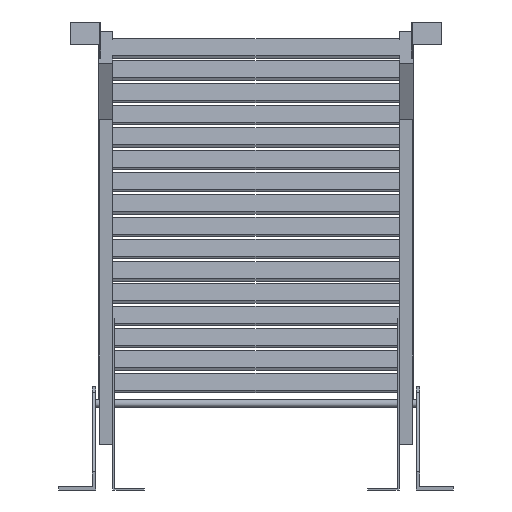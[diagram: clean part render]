
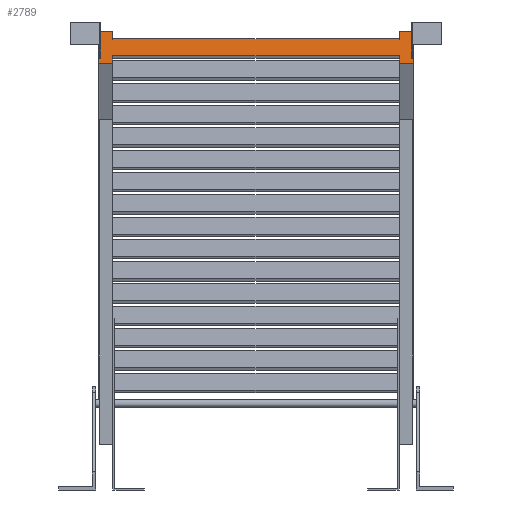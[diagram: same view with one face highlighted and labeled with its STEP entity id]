
A CAD part, front view. The second image highlights one B-rep face of the part: STEP entity #2789.
In plain terms, the highlighted planar face has unit normal (0, -0.99, 0.139).
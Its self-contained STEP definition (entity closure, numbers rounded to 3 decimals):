
#1763=DIRECTION('',(0.,0.139,0.99));
#1764=VECTOR('',#1763,13.5);
#1765=CARTESIAN_POINT('',(-250.,-4059.275,788.803));
#1766=LINE('',#1765,#1764);
#1767=DIRECTION('',(0.,-0.139,-0.99));
#1768=VECTOR('',#1767,13.5);
#1769=CARTESIAN_POINT('',(250.,-4057.396,802.172));
#1770=LINE('',#1769,#1768);
#1771=DIRECTION('',(-1.,0.,0.));
#1772=VECTOR('',#1771,25.);
#1773=CARTESIAN_POINT('',(275.,-4057.396,802.172));
#1774=LINE('',#1773,#1772);
#1775=DIRECTION('',(0.,0.139,0.99));
#1776=VECTOR('',#1775,57.);
#1777=CARTESIAN_POINT('',(275.,-4065.329,745.727));
#1778=LINE('',#1777,#1776);
#1779=DIRECTION('',(1.,0.,0.));
#1780=VECTOR('',#1779,25.);
#1781=CARTESIAN_POINT('',(250.,-4065.329,745.727));
#1782=LINE('',#1781,#1780);
#1783=DIRECTION('',(0.,-0.139,-0.99));
#1784=VECTOR('',#1783,13.5);
#1785=CARTESIAN_POINT('',(250.,-4063.45,759.095));
#1786=LINE('',#1785,#1784);
#1787=DIRECTION('',(0.,0.139,0.99));
#1788=VECTOR('',#1787,13.5);
#1789=CARTESIAN_POINT('',(-250.,-4065.329,745.727));
#1790=LINE('',#1789,#1788);
#1791=DIRECTION('',(1.,0.,0.));
#1792=VECTOR('',#1791,25.);
#1793=CARTESIAN_POINT('',(-275.,-4065.329,745.727));
#1794=LINE('',#1793,#1792);
#1795=DIRECTION('',(0.,-0.139,-0.99));
#1796=VECTOR('',#1795,57.);
#1797=CARTESIAN_POINT('',(-275.,-4057.396,802.172));
#1798=LINE('',#1797,#1796);
#1799=DIRECTION('',(-1.,0.,0.));
#1800=VECTOR('',#1799,25.);
#1801=CARTESIAN_POINT('',(-250.,-4057.396,802.172));
#1802=LINE('',#1801,#1800);
#1803=DIRECTION('',(1.,0.,0.));
#1804=VECTOR('',#1803,2.);
#1805=CARTESIAN_POINT('',(-273.,-4064.146,754.144));
#1806=LINE('',#1805,#1804);
#1807=DIRECTION('',(0.,0.139,0.99));
#1808=VECTOR('',#1807,40.);
#1809=CARTESIAN_POINT('',(-271.,-4064.146,754.144));
#1810=LINE('',#1809,#1808);
#1811=DIRECTION('',(1.,0.,0.));
#1812=VECTOR('',#1811,2.);
#1813=CARTESIAN_POINT('',(-273.,-4058.579,793.755));
#1814=LINE('',#1813,#1812);
#1815=DIRECTION('',(0.,0.139,0.99));
#1816=VECTOR('',#1815,40.);
#1817=CARTESIAN_POINT('',(-273.,-4064.146,754.144));
#1818=LINE('',#1817,#1816);
#1819=DIRECTION('',(1.,0.,0.));
#1820=VECTOR('',#1819,2.);
#1821=CARTESIAN_POINT('',(271.,-4064.146,754.144));
#1822=LINE('',#1821,#1820);
#1823=DIRECTION('',(0.,0.139,0.99));
#1824=VECTOR('',#1823,40.);
#1825=CARTESIAN_POINT('',(273.,-4064.146,754.144));
#1826=LINE('',#1825,#1824);
#1827=DIRECTION('',(1.,0.,0.));
#1828=VECTOR('',#1827,2.);
#1829=CARTESIAN_POINT('',(271.,-4058.579,793.755));
#1830=LINE('',#1829,#1828);
#1831=DIRECTION('',(0.,0.139,0.99));
#1832=VECTOR('',#1831,40.);
#1833=CARTESIAN_POINT('',(271.,-4064.146,754.144));
#1834=LINE('',#1833,#1832);
#2359=DIRECTION('',(1.,0.,0.));
#2360=VECTOR('',#2359,500.);
#2361=CARTESIAN_POINT('',(-250.,-4059.275,788.803));
#2362=LINE('',#2361,#2360);
#2363=DIRECTION('',(1.,0.,0.));
#2364=VECTOR('',#2363,500.);
#2365=CARTESIAN_POINT('',(-250.,-4063.45,759.095));
#2366=LINE('',#2365,#2364);
#2483=CARTESIAN_POINT('',(-250.,-4057.396,802.172));
#2484=CARTESIAN_POINT('',(-275.,-4057.396,802.172));
#2485=VERTEX_POINT('',#2483);
#2486=VERTEX_POINT('',#2484);
#2487=CARTESIAN_POINT('',(-275.,-4065.329,745.727));
#2488=CARTESIAN_POINT('',(-250.,-4065.329,745.727));
#2489=VERTEX_POINT('',#2487);
#2490=VERTEX_POINT('',#2488);
#2491=CARTESIAN_POINT('',(275.,-4065.329,745.727));
#2492=CARTESIAN_POINT('',(275.,-4057.396,802.172));
#2493=VERTEX_POINT('',#2491);
#2494=VERTEX_POINT('',#2492);
#2495=CARTESIAN_POINT('',(250.,-4065.329,745.727));
#2496=VERTEX_POINT('',#2495);
#2497=CARTESIAN_POINT('',(250.,-4057.396,802.172));
#2498=VERTEX_POINT('',#2497);
#2611=CARTESIAN_POINT('',(-250.,-4063.45,759.095));
#2613=VERTEX_POINT('',#2611);
#2615=CARTESIAN_POINT('',(-250.,-4059.275,788.803));
#2617=VERTEX_POINT('',#2615);
#2619=CARTESIAN_POINT('',(250.,-4063.45,759.095));
#2621=VERTEX_POINT('',#2619);
#2623=CARTESIAN_POINT('',(250.,-4059.275,788.803));
#2625=VERTEX_POINT('',#2623);
#2691=CARTESIAN_POINT('',(-273.,-4064.146,754.144));
#2692=CARTESIAN_POINT('',(-271.,-4064.146,754.144));
#2693=VERTEX_POINT('',#2691);
#2694=VERTEX_POINT('',#2692);
#2695=CARTESIAN_POINT('',(-273.,-4058.579,793.755));
#2696=CARTESIAN_POINT('',(-271.,-4058.579,793.755));
#2697=VERTEX_POINT('',#2695);
#2698=VERTEX_POINT('',#2696);
#2715=CARTESIAN_POINT('',(271.,-4064.146,754.144));
#2716=CARTESIAN_POINT('',(273.,-4064.146,754.144));
#2717=VERTEX_POINT('',#2715);
#2718=VERTEX_POINT('',#2716);
#2719=CARTESIAN_POINT('',(271.,-4058.579,793.755));
#2720=CARTESIAN_POINT('',(273.,-4058.579,793.755));
#2721=VERTEX_POINT('',#2719);
#2722=VERTEX_POINT('',#2720);
#2739=CARTESIAN_POINT('',(0.,-4089.362,574.722));
#2740=DIRECTION('',(0.,0.99,-0.139));
#2741=DIRECTION('',(1.,0.,0.));
#2742=AXIS2_PLACEMENT_3D('',#2739,#2740,#2741);
#2743=PLANE('',#2742);
#2745=ORIENTED_EDGE('',*,*,#2744,.F.);
#2747=ORIENTED_EDGE('',*,*,#2746,.T.);
#2749=ORIENTED_EDGE('',*,*,#2748,.F.);
#2751=ORIENTED_EDGE('',*,*,#2750,.F.);
#2753=ORIENTED_EDGE('',*,*,#2752,.F.);
#2755=ORIENTED_EDGE('',*,*,#2754,.F.);
#2757=ORIENTED_EDGE('',*,*,#2756,.F.);
#2759=ORIENTED_EDGE('',*,*,#2758,.F.);
#2761=ORIENTED_EDGE('',*,*,#2760,.F.);
#2763=ORIENTED_EDGE('',*,*,#2762,.F.);
#2765=ORIENTED_EDGE('',*,*,#2764,.F.);
#2767=ORIENTED_EDGE('',*,*,#2766,.F.);
#2768=EDGE_LOOP('',(#2745,#2747,#2749,#2751,#2753,#2755,#2757,#2759,#2761,#2763,
#2765,#2767));
#2769=FACE_OUTER_BOUND('',#2768,.F.);
#2771=ORIENTED_EDGE('',*,*,#2770,.T.);
#2773=ORIENTED_EDGE('',*,*,#2772,.T.);
#2775=ORIENTED_EDGE('',*,*,#2774,.F.);
#2777=ORIENTED_EDGE('',*,*,#2776,.F.);
#2778=EDGE_LOOP('',(#2771,#2773,#2775,#2777));
#2779=FACE_BOUND('',#2778,.F.);
#2781=ORIENTED_EDGE('',*,*,#2780,.T.);
#2783=ORIENTED_EDGE('',*,*,#2782,.T.);
#2785=ORIENTED_EDGE('',*,*,#2784,.F.);
#2786=ORIENTED_EDGE('',*,*,#2728,.F.);
#2787=EDGE_LOOP('',(#2781,#2783,#2785,#2786));
#2788=FACE_BOUND('',#2787,.F.);
#2728=EDGE_CURVE('',#2717,#2721,#1834,.T.);
#2744=EDGE_CURVE('',#2617,#2485,#1766,.T.);
#2746=EDGE_CURVE('',#2617,#2625,#2362,.T.);
#2748=EDGE_CURVE('',#2498,#2625,#1770,.T.);
#2750=EDGE_CURVE('',#2494,#2498,#1774,.T.);
#2752=EDGE_CURVE('',#2493,#2494,#1778,.T.);
#2754=EDGE_CURVE('',#2496,#2493,#1782,.T.);
#2756=EDGE_CURVE('',#2621,#2496,#1786,.T.);
#2758=EDGE_CURVE('',#2613,#2621,#2366,.T.);
#2760=EDGE_CURVE('',#2490,#2613,#1790,.T.);
#2762=EDGE_CURVE('',#2489,#2490,#1794,.T.);
#2764=EDGE_CURVE('',#2486,#2489,#1798,.T.);
#2766=EDGE_CURVE('',#2485,#2486,#1802,.T.);
#2770=EDGE_CURVE('',#2693,#2694,#1806,.T.);
#2772=EDGE_CURVE('',#2694,#2698,#1810,.T.);
#2774=EDGE_CURVE('',#2697,#2698,#1814,.T.);
#2776=EDGE_CURVE('',#2693,#2697,#1818,.T.);
#2780=EDGE_CURVE('',#2717,#2718,#1822,.T.);
#2782=EDGE_CURVE('',#2718,#2722,#1826,.T.);
#2784=EDGE_CURVE('',#2721,#2722,#1830,.T.);
#2789=ADVANCED_FACE('',(#2769,#2779,#2788),#2743,.F.);
